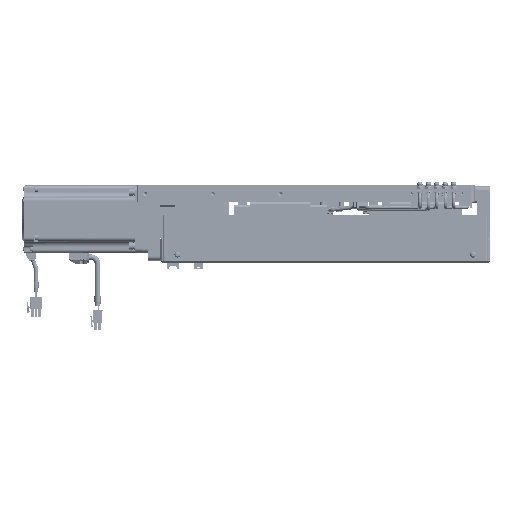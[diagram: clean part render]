
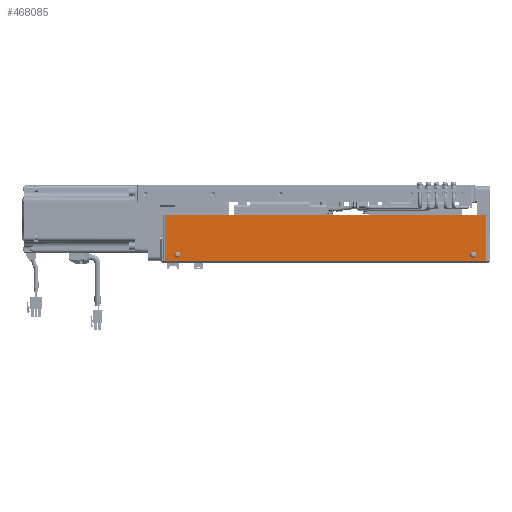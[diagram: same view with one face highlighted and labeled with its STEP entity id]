
A CAD part, left-side view. The second image highlights one B-rep face of the part: STEP entity #468085.
In plain terms, the highlighted planar face has unit normal (-1, 0, 0).
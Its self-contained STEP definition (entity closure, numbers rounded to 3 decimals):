
#4269 = AXIS2_PLACEMENT_3D ( 'NONE', #258423, #291903, #222381 ) ;
#7404 = CARTESIAN_POINT ( 'NONE',  ( -192., 190., 57. ) ) ;
#24855 = FACE_BOUND ( 'NONE', #425556, .T. ) ;
#27350 = PLANE ( 'NONE',  #337414 ) ;
#40329 = DIRECTION ( 'NONE',  ( 0., -1., 0. ) ) ;
#48432 = CARTESIAN_POINT ( 'NONE',  ( -192., -172.75, 10. ) ) ;
#56459 = DIRECTION ( 'NONE',  ( -1., 0., 0. ) ) ;
#59213 = VERTEX_POINT ( 'NONE', #7404 ) ;
#78972 = EDGE_CURVE ( 'NONE', #120293, #110233, #423936, .T. ) ;
#80836 = DIRECTION ( 'NONE',  ( -1., 0., 0. ) ) ;
#103313 = AXIS2_PLACEMENT_3D ( 'NONE', #437313, #470828, #40329 ) ;
#106263 = LINE ( 'NONE', #380443, #309281 ) ;
#110233 = VERTEX_POINT ( 'NONE', #124762 ) ;
#120293 = VERTEX_POINT ( 'NONE', #48432 ) ;
#124762 = CARTESIAN_POINT ( 'NONE',  ( -192., -177.25, 10. ) ) ;
#130184 = VERTEX_POINT ( 'NONE', #419779 ) ;
#134656 = EDGE_LOOP ( 'NONE', ( #311057, #415985, #283767, #488040 ) ) ;
#139269 = EDGE_CURVE ( 'NONE', #494996, #59213, #482472, .T. ) ;
#151277 = CARTESIAN_POINT ( 'NONE',  ( -192., -190., 2. ) ) ;
#159685 = CIRCLE ( 'NONE', #4269, 2.25 ) ;
#174907 = VERTEX_POINT ( 'NONE', #151277 ) ;
#193021 = EDGE_CURVE ( 'NONE', #213969, #260636, #422340, .T. ) ;
#198089 = ORIENTED_EDGE ( 'NONE', *, *, #78972, .F. ) ;
#203036 = AXIS2_PLACEMENT_3D ( 'NONE', #274812, #389893, #315786 ) ;
#213969 = VERTEX_POINT ( 'NONE', #448480 ) ;
#222381 = DIRECTION ( 'NONE',  ( 0., -1., 0. ) ) ;
#228201 = LINE ( 'NONE', #346103, #233592 ) ;
#233049 = VECTOR ( 'NONE', #484979, 1000. ) ;
#233592 = VECTOR ( 'NONE', #386974, 1000. ) ;
#258423 = CARTESIAN_POINT ( 'NONE',  ( -192., 175., 10. ) ) ;
#260636 = VERTEX_POINT ( 'NONE', #324632 ) ;
#262783 = DIRECTION ( 'NONE',  ( 0., 0., -1. ) ) ;
#274812 = CARTESIAN_POINT ( 'NONE',  ( -192., -175., 10. ) ) ;
#278198 = EDGE_LOOP ( 'NONE', ( #414659, #198089 ) ) ;
#283767 = ORIENTED_EDGE ( 'NONE', *, *, #406171, .T. ) ;
#291903 = DIRECTION ( 'NONE',  ( -1., 0., 0. ) ) ;
#298271 = DIRECTION ( 'NONE',  ( 0., 0., 1. ) ) ;
#299168 = FACE_OUTER_BOUND ( 'NONE', #134656, .T. ) ;
#309281 = VECTOR ( 'NONE', #262783, 1000. ) ;
#309456 = ORIENTED_EDGE ( 'NONE', *, *, #450908, .F. ) ;
#311057 = ORIENTED_EDGE ( 'NONE', *, *, #435825, .T. ) ;
#315786 = DIRECTION ( 'NONE',  ( 0., -1., 0. ) ) ;
#324632 = CARTESIAN_POINT ( 'NONE',  ( -192., 172.75, 10. ) ) ;
#328269 = CARTESIAN_POINT ( 'NONE',  ( -192., -175., 10. ) ) ;
#328836 = CARTESIAN_POINT ( 'NONE',  ( -192., 190., 57. ) ) ;
#333221 = DIRECTION ( 'NONE',  ( 0., -1., 0. ) ) ;
#337414 = AXIS2_PLACEMENT_3D ( 'NONE', #393504, #80836, #429427 ) ;
#346103 = CARTESIAN_POINT ( 'NONE',  ( -192., 190., 2. ) ) ;
#350319 = AXIS2_PLACEMENT_3D ( 'NONE', #328269, #56459, #333221 ) ;
#380443 = CARTESIAN_POINT ( 'NONE',  ( -192., 190., 57. ) ) ;
#382452 = CARTESIAN_POINT ( 'NONE',  ( -192., -190., 57. ) ) ;
#382965 = EDGE_CURVE ( 'NONE', #110233, #120293, #472860, .T. ) ;
#386974 = DIRECTION ( 'NONE',  ( 0., -1., 0. ) ) ;
#389893 = DIRECTION ( 'NONE',  ( -1., 0., 0. ) ) ;
#393504 = CARTESIAN_POINT ( 'NONE',  ( -192., 0., 29.5 ) ) ;
#406171 = EDGE_CURVE ( 'NONE', #59213, #130184, #106263, .T. ) ;
#414659 = ORIENTED_EDGE ( 'NONE', *, *, #382965, .F. ) ;
#415985 = ORIENTED_EDGE ( 'NONE', *, *, #139269, .T. ) ;
#418567 = CARTESIAN_POINT ( 'NONE',  ( -192., -190., 57. ) ) ;
#419779 = CARTESIAN_POINT ( 'NONE',  ( -192., 190., 2. ) ) ;
#422340 = CIRCLE ( 'NONE', #103313, 2.25 ) ;
#423936 = CIRCLE ( 'NONE', #203036, 2.25 ) ;
#425556 = EDGE_LOOP ( 'NONE', ( #309456, #447070 ) ) ;
#429427 = DIRECTION ( 'NONE',  ( 0., -1., 0. ) ) ;
#435825 = EDGE_CURVE ( 'NONE', #174907, #494996, #459429, .T. ) ;
#437313 = CARTESIAN_POINT ( 'NONE',  ( -192., 175., 10. ) ) ;
#447070 = ORIENTED_EDGE ( 'NONE', *, *, #193021, .F. ) ;
#448480 = CARTESIAN_POINT ( 'NONE',  ( -192., 177.25, 10. ) ) ;
#450908 = EDGE_CURVE ( 'NONE', #260636, #213969, #159685, .T. ) ;
#459429 = LINE ( 'NONE', #382452, #470744 ) ;
#463036 = EDGE_CURVE ( 'NONE', #130184, #174907, #228201, .T. ) ;
#468085 = ADVANCED_FACE ( 'NONE', ( #24855, #491206, #299168 ), #27350, .T. ) ;
#470744 = VECTOR ( 'NONE', #298271, 1000. ) ;
#470828 = DIRECTION ( 'NONE',  ( -1., 0., 0. ) ) ;
#472860 = CIRCLE ( 'NONE', #350319, 2.25 ) ;
#482472 = LINE ( 'NONE', #328836, #233049 ) ;
#484979 = DIRECTION ( 'NONE',  ( 0., 1., 0. ) ) ;
#488040 = ORIENTED_EDGE ( 'NONE', *, *, #463036, .T. ) ;
#491206 = FACE_BOUND ( 'NONE', #278198, .T. ) ;
#494996 = VERTEX_POINT ( 'NONE', #418567 ) ;
